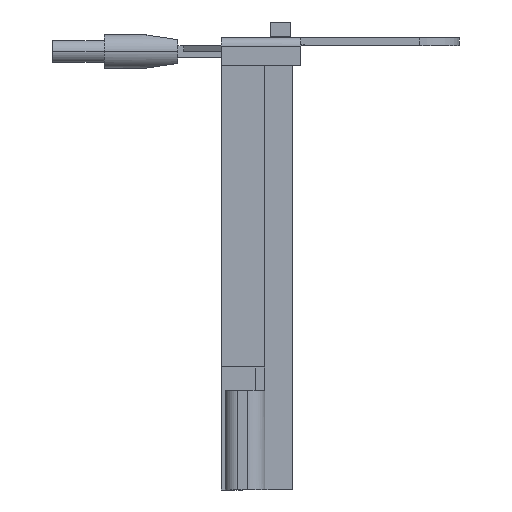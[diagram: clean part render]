
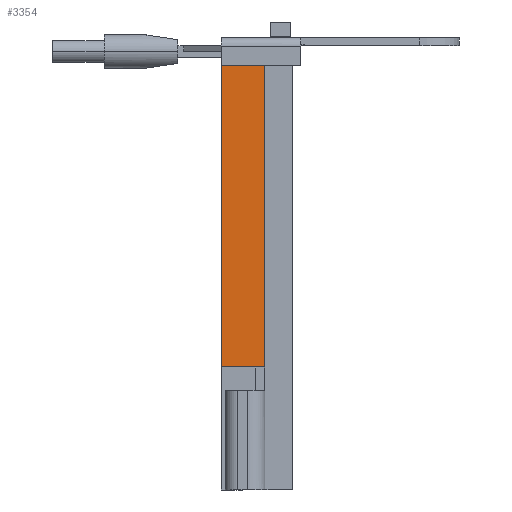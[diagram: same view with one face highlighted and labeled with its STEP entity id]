
A CAD part, left-side view. The second image highlights one B-rep face of the part: STEP entity #3354.
In plain terms, the highlighted planar face has unit normal (-1, 0, 0).
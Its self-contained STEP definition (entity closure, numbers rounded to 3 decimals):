
#1006 = AXIS2_PLACEMENT_3D ( 'NONE', #5303, #5300, #5299 ) ;
#1726 = EDGE_CURVE ( 'NONE', #8016, #8482, #4781, .T. ) ;
#1786 = EDGE_CURVE ( 'NONE', #8482, #8409, #4890, .T. ) ;
#1931 = EDGE_CURVE ( 'NONE', #8400, #8016, #5125, .T. ) ;
#1968 = EDGE_CURVE ( 'NONE', #8400, #8409, #3808, .T. ) ;
#2885 = EDGE_LOOP ( 'NONE', ( #3105, #3106, #3107, #3108 ) ) ;
#3105 = ORIENTED_EDGE ( 'NONE', *, *, #1968, .F. ) ;
#3106 = ORIENTED_EDGE ( 'NONE', *, *, #1931, .T. ) ;
#3107 = ORIENTED_EDGE ( 'NONE', *, *, #1726, .T. ) ;
#3108 = ORIENTED_EDGE ( 'NONE', *, *, #1786, .T. ) ;
#3354 = ADVANCED_FACE ( 'NONE', ( #4433 ), #5302, .F. ) ;
#3808 = LINE ( 'NONE', #7501, #3809 ) ;
#3809 = VECTOR ( 'NONE', #7500, 1000. ) ;
#4433 = FACE_OUTER_BOUND ( 'NONE', #2885, .T. ) ;
#4779 = VECTOR ( 'NONE', #8131, 1000. ) ;
#4781 = LINE ( 'NONE', #8139, #4779 ) ;
#4876 = VECTOR ( 'NONE', #7914, 1000. ) ;
#4890 = LINE ( 'NONE', #7915, #4876 ) ;
#5125 = LINE ( 'NONE', #7625, #5134 ) ;
#5134 = VECTOR ( 'NONE', #7621, 1000. ) ;
#5299 = DIRECTION ( 'NONE',  ( 0., -1., 0. ) ) ;
#5300 = DIRECTION ( 'NONE',  ( 1., 0., 0. ) ) ;
#5302 = PLANE ( 'NONE',  #1006 ) ;
#5303 = CARTESIAN_POINT ( 'NONE',  ( -88., 4., -101. ) ) ;
#6290 = CARTESIAN_POINT ( 'NONE',  ( -88., 4., -83. ) ) ;
#6725 = CARTESIAN_POINT ( 'NONE',  ( -88., 15., -83. ) ) ;
#6734 = CARTESIAN_POINT ( 'NONE',  ( -88., 15., -2. ) ) ;
#6808 = CARTESIAN_POINT ( 'NONE',  ( -88., 4., -2. ) ) ;
#7500 = DIRECTION ( 'NONE',  ( 0., 0., 1. ) ) ;
#7501 = CARTESIAN_POINT ( 'NONE',  ( -88., 15., -101. ) ) ;
#7621 = DIRECTION ( 'NONE',  ( 0., -1., 0. ) ) ;
#7625 = CARTESIAN_POINT ( 'NONE',  ( -88., 15., -83. ) ) ;
#7914 = DIRECTION ( 'NONE',  ( 0., 1., 0. ) ) ;
#7915 = CARTESIAN_POINT ( 'NONE',  ( -88., 4., -2. ) ) ;
#8016 = VERTEX_POINT ( 'NONE', #6290 ) ;
#8131 = DIRECTION ( 'NONE',  ( 0., 0., 1. ) ) ;
#8139 = CARTESIAN_POINT ( 'NONE',  ( -88., 4., -101. ) ) ;
#8400 = VERTEX_POINT ( 'NONE', #6725 ) ;
#8409 = VERTEX_POINT ( 'NONE', #6734 ) ;
#8482 = VERTEX_POINT ( 'NONE', #6808 ) ;
